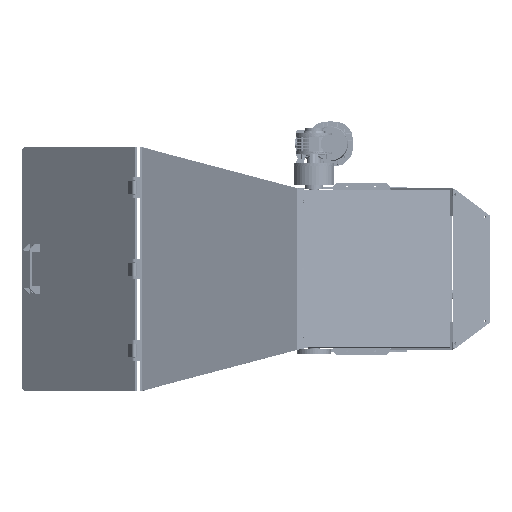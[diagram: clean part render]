
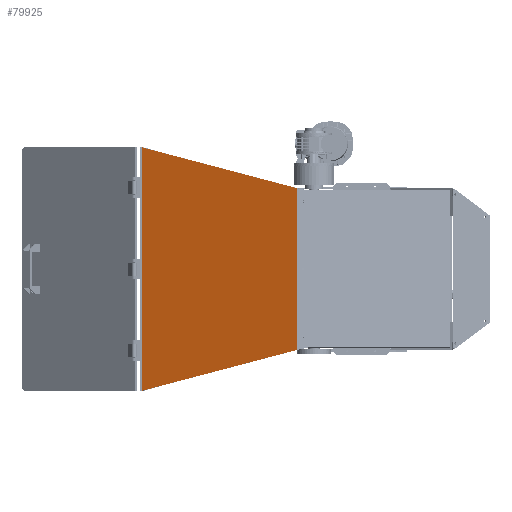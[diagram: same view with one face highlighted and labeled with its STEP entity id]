
A CAD part, left-side view. The second image highlights one B-rep face of the part: STEP entity #79925.
In plain terms, the highlighted planar face has unit normal (-0.94, 0.341, 0) as drawn and (0, 0.94, -0.341) by its records, which use the part's own axes.
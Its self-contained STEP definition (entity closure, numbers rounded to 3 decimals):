
#4465 = CARTESIAN_POINT ( 'NONE',  ( 218.093, 962.152, 265.068 ) ) ;
#8317 = VECTOR ( 'NONE', #129213, 1000. ) ;
#12881 = CARTESIAN_POINT ( 'NONE',  ( -328.1, 811.04, -152. ) ) ;
#28799 = VERTEX_POINT ( 'NONE', #12881 ) ;
#32416 = CARTESIAN_POINT ( 'NONE',  ( -218.093, 962.152, 265.068 ) ) ;
#43842 = EDGE_CURVE ( 'NONE', #46364, #28799, #49168, .T. ) ;
#46364 = VERTEX_POINT ( 'NONE', #32416 ) ;
#49168 = LINE ( 'NONE', #80400, #175847 ) ;
#54488 = ORIENTED_EDGE ( 'NONE', *, *, #43842, .F. ) ;
#64552 = ORIENTED_EDGE ( 'NONE', *, *, #122324, .T. ) ;
#71211 = CARTESIAN_POINT ( 'NONE',  ( -328.1, 961.917, 264.42 ) ) ;
#79925 = ADVANCED_FACE ( 'NONE', ( #228314 ), #122013, .F. ) ;
#80400 = CARTESIAN_POINT ( 'NONE',  ( -218.093, 962.152, 265.068 ) ) ;
#92148 = EDGE_CURVE ( 'NONE', #28799, #221557, #147624, .T. ) ;
#92892 = AXIS2_PLACEMENT_3D ( 'NONE', #71211, #141673, #142783 ) ;
#102165 = VECTOR ( 'NONE', #227164, 1000. ) ;
#112974 = VECTOR ( 'NONE', #215600, 1000. ) ;
#122013 = PLANE ( 'NONE',  #92892 ) ;
#122324 = EDGE_CURVE ( 'NONE', #46364, #129110, #191308, .T. ) ;
#123156 = CARTESIAN_POINT ( 'NONE',  ( -218.093, 962.152, 265.068 ) ) ;
#124413 = EDGE_LOOP ( 'NONE', ( #64552, #202506, #159014, #54488 ) ) ;
#129110 = VERTEX_POINT ( 'NONE', #133400 ) ;
#129213 = DIRECTION ( 'NONE',  ( 1., 0., 0. ) ) ;
#133400 = CARTESIAN_POINT ( 'NONE',  ( 218.093, 962.152, 265.068 ) ) ;
#141673 = DIRECTION ( 'NONE',  ( 0., -0.94, 0.341 ) ) ;
#142783 = DIRECTION ( 'NONE',  ( -1., 0., 0. ) ) ;
#147624 = LINE ( 'NONE', #220398, #8317 ) ;
#159014 = ORIENTED_EDGE ( 'NONE', *, *, #92148, .F. ) ;
#175847 = VECTOR ( 'NONE', #205054, 1000. ) ;
#191308 = LINE ( 'NONE', #123156, #102165 ) ;
#195998 = LINE ( 'NONE', #4465, #112974 ) ;
#199422 = CARTESIAN_POINT ( 'NONE',  ( 328.1, 811.04, -152. ) ) ;
#202506 = ORIENTED_EDGE ( 'NONE', *, *, #225474, .T. ) ;
#205054 = DIRECTION ( 'NONE',  ( -0.241, -0.331, -0.913 ) ) ;
#215600 = DIRECTION ( 'NONE',  ( 0.241, -0.331, -0.913 ) ) ;
#220398 = CARTESIAN_POINT ( 'NONE',  ( -328.1, 811.04, -152. ) ) ;
#221557 = VERTEX_POINT ( 'NONE', #199422 ) ;
#225474 = EDGE_CURVE ( 'NONE', #129110, #221557, #195998, .T. ) ;
#227164 = DIRECTION ( 'NONE',  ( 1., 0., 0. ) ) ;
#228314 = FACE_OUTER_BOUND ( 'NONE', #124413, .T. ) ;
